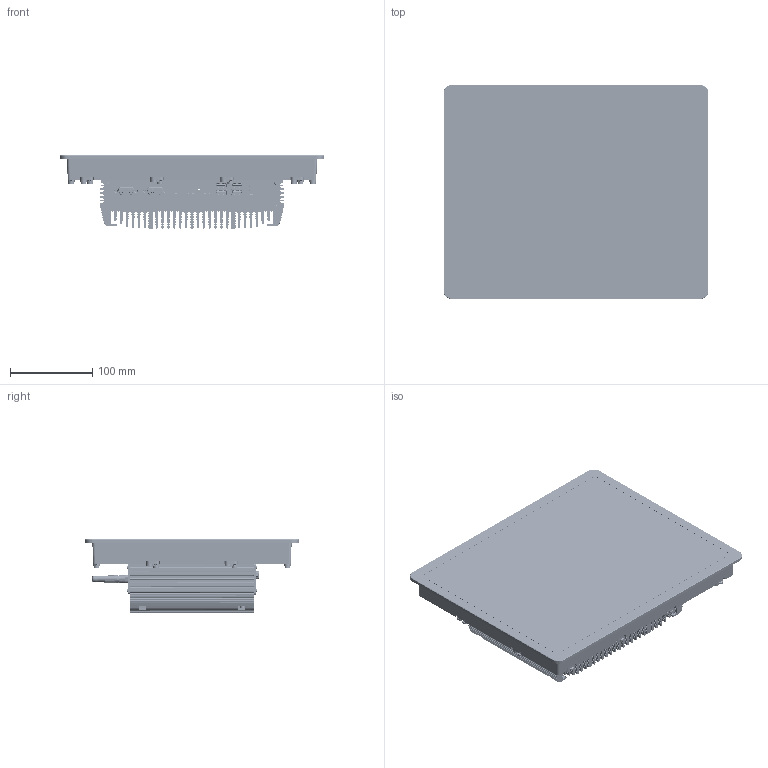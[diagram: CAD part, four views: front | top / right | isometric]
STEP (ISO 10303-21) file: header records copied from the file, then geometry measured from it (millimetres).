
FILE_DESCRIPTION(/* description */ (''),/* implementation_level */ '2;1');
FILE_NAME(/* name */ '12.1总装.stp',/* time_stamp */ '2026-03-05T09:37:32+08:00',/* author */ (''),/* organization */ (''),/* preprocessor_version */ 'ST-DEVELOPER v16',/* originating_system */ 'SIEMENS PLM Software NX 10.0',/* authorisation */ '');
FILE_SCHEMA (('AP203_CONFIGURATION_CONTROLLED_3D_DESIGN_OF_MECHANICAL_PARTS_AND_ASSEMBLIES_MIM_LF { 1 0 10303 403 2 1 2}'));
Products named in the file (1): Admi1FF8C4AFel3n
Bounding box: 321 x 260 x 88.5 mm (x, y, z)
Volume: 1190477.5 mm3; surface area: 816931.2 mm2
Topology: 201 solids, 216 shells, 13817 faces, 35913 edges, 22685 vertices
Faces by surface type: plane 6059, cylinder 5119, bspline 1693, torus 445, cone 363, sphere 138
Full cylindrical faces by diameter (mm): 4.2 x5, 5.4 x4, 6 x12, 7 x12
Entity records: 574559 total; most frequent: CARTESIAN_POINT 300684, ORIENTED_EDGE 71078, EDGE_CURVE 35545, DIRECTION 35468, B_SPLINE_CURVE_WITH_KNOTS 25128, VERTEX_POINT 22652, AXIS2_PLACEMENT_3D 15429, EDGE_LOOP 14789
